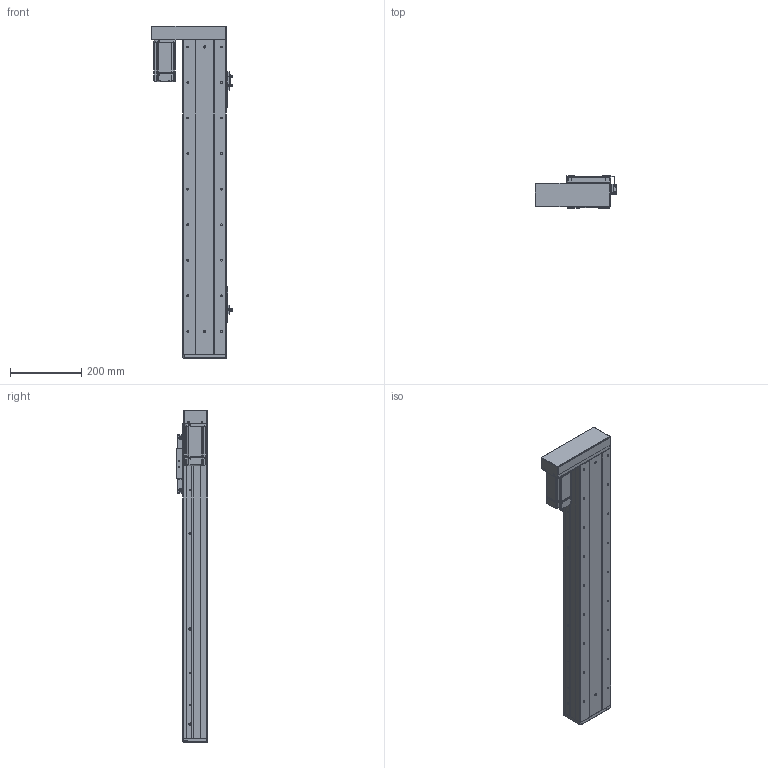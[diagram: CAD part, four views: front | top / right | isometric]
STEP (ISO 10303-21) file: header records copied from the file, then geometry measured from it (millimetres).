
FILE_DESCRIPTION (( 'STEP AP203' ), '1' );
FILE_NAME ('RY120F-L1620-300-LK.SLDASM_650.step', '2021-03-02T08:04:02', ( '盈信电脑' ), ( '东莞市道滘镇水果街19号' ), 'SwSTEP 2.0', 'SolidWorks 2012', '' );
FILE_SCHEMA (( 'CONFIG_CONTROL_DESIGN' ));
Length unit declared in the file: millimetre
Products named in the file (18): RY120F酘衵殏萇儂欶(200W); RY120F-L1620-300-LK.SLDASM_650; FY120F詩湍揤踡輸; RY80俋离覜茼え; 15; RY120F酘衵殏萇儂啣(200W PCD70 M4); RY120F綴裔啣(臏璃ㄘ; 覜茼ん672; 672嫖萇羲壽假蚾釱; RY120F-詩湍幗謫粣; RY120F转折电机端支撑座; 滅袉蝶18-24; RT120F-臏賑輸奻釱; RY120F祥凄詩滅鳥裔; RY120F滅鳥詩湍-300-LK_650; RT120F-300-倰第裔啣-LK_650; RT120F-臏賑輸 16蹟譫; RT120F-300-倰第菁釱-LK_650
Assembly tree (23 placements, depth 2):
  RY120F-L1620-300-LK.SLDASM_650
    RT120F-300-倰第菁釱-LK_650
    RT120F-300-倰第裔啣-LK_650  x2
    RY120F滅鳥詩湍-300-LK_650
    RT120F-臏賑輸 16蹟譫
    RT120F-臏賑輸奻釱
    RY120F转折电机端支撑座
    RY120F祥凄詩滅鳥裔
    滅袉蝶18-24  x2
    RY120F綴裔啣(臏璃ㄘ
    RY120F-詩湍幗謫粣
    覜茼ん672  x3
    672嫖萇羲壽假蚾釱  x2
    RY80俋离覜茼え
    FY120F詩湍揤踡輸  x2
    15
    RY120F酘衵殏萇儂啣(200W PCD70 M4)
    RY120F酘衵殏萇儂欶(200W)
Bounding box: 229.9 x 89 x 934 mm (x, y, z)
Volume: 3372243.9 mm3; surface area: 1229142.2 mm2
Topology: 23 solids, 23 shells, 2099 faces, 5629 edges, 3581 vertices
Faces by surface type: cylinder 940, plane 896, cone 237, bspline 26
Entity records: 58875 total; most frequent: CARTESIAN_POINT 10900, DIRECTION 9933, ORIENTED_EDGE 9282, EDGE_CURVE 4641, AXIS2_PLACEMENT_3D 3594, VERTEX_POINT 3025, LINE 2745, VECTOR 2745
